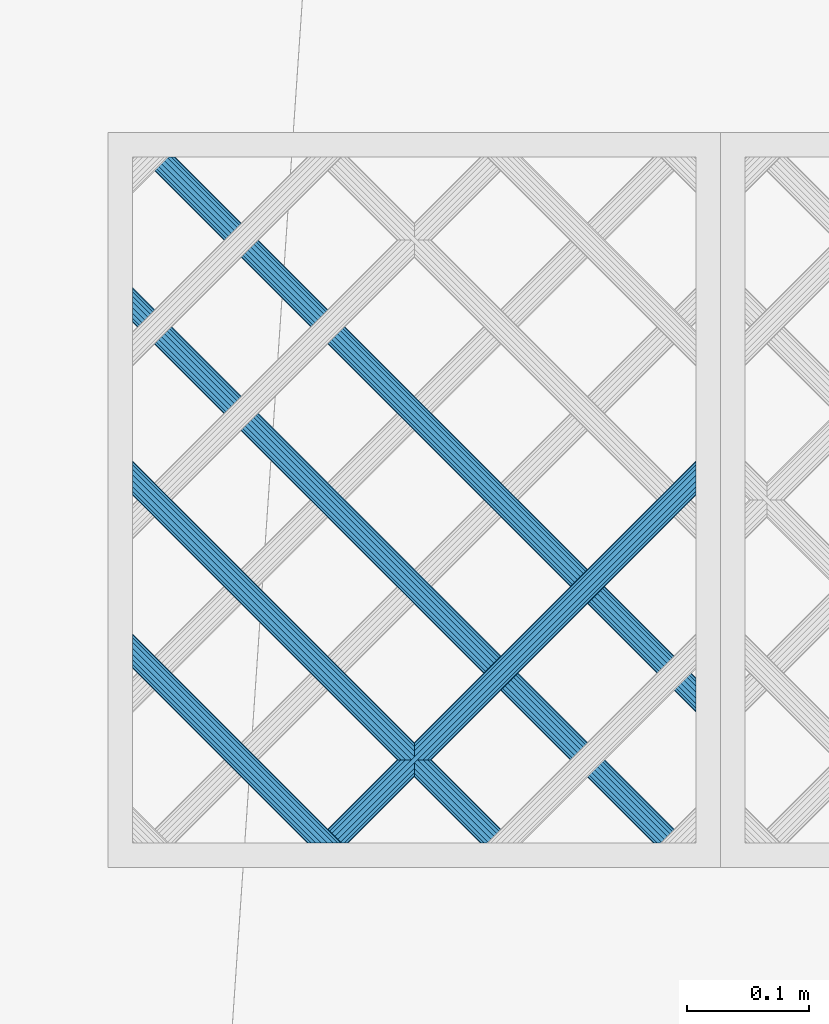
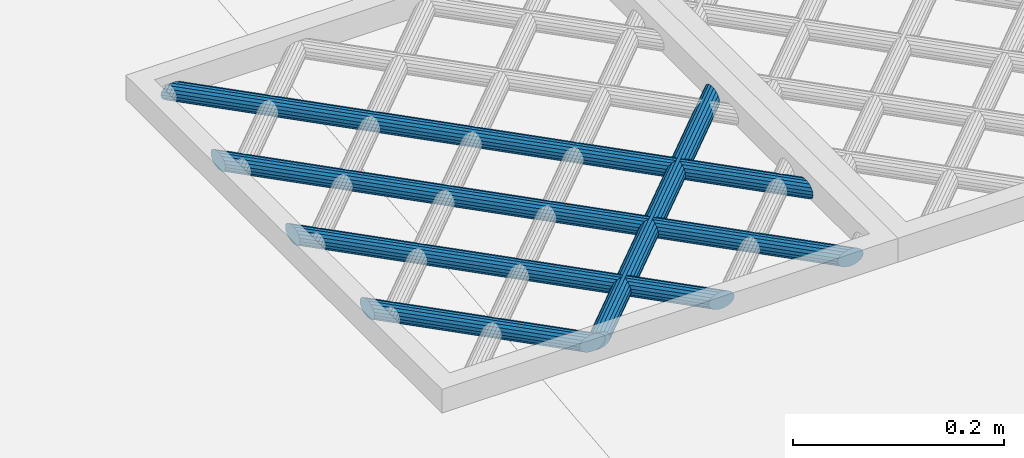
# One storey, part 74 of 133: 5 members, 1 element without a shape of its own.
"""IFC2X3 building model written with IfcOpenShell, lengths in centimetres."""

from ifc_helpers import new_model, entity, si_unit, converted_unit, direction, frame, origin, origin_with_axes, place, context, subcontext, project, spatial, faceted_brep, material, type_object, element, aggregate, save


model = new_model("IFC2X3")

# Units and contexts
model_context = context("Model", 3, precision=0.0001, world=origin(), true_north=direction((0.225632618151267, 0.974212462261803, 0.0)))
body_context = subcontext(model_context, "Body", "Model", "MODEL_VIEW")
ifc_project = project(units=[si_unit("LENGTHUNIT", "METRE", prefix="CENTI"), si_unit("AREAUNIT", "SQUARE_METRE", prefix="CENTI"), si_unit("VOLUMEUNIT", "CUBIC_METRE", prefix="CENTI"), converted_unit("PLANEANGLEUNIT", "DEGREE", entity("IfcRatioMeasure", 0.0174532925), si_unit("PLANEANGLEUNIT", "RADIAN"), dimensions=[0, 0, 0, 0, 0, 0, 0])], contexts=[model_context])

# Site, building, storey
site_placement = place(None, origin_with_axes())
site = spatial("IfcSite", under=ifc_project, at=site_placement, Name="Default Site", CompositionType="ELEMENT")
building_placement = place(site_placement, origin_with_axes())
building = spatial("IfcBuilding", under=site, at=building_placement, Name="Default Building", CompositionType="ELEMENT")
storey_placement = place(building_placement, frame((0.0, 0.0, -291.400371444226), z_axis=(0.0, 0.0, 1.0), x_axis=(1.0, 0.0, 0.0)))
storey = spatial("IfcBuildingStorey", under=building, at=storey_placement, Name="Rez-de-Jardin", CompositionType="ELEMENT", Elevation=-291.400371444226)

# Assembly, members
building_element_proxy_type = type_object("IfcBuildingElementProxyType", Name="Type Object", PredefinedType="NOTDEFINED")
assembly_placement = place(storey_placement, frame((-26.2717802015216, 1298.33524038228, 113.0), z_axis=(0.0, 1.0, -2.38697950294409e-15), x_axis=(1.0, 0.0, 0.0)))
assembly = element("IfcElementAssembly", 1, at=assembly_placement, inside=storey, type_object=building_element_proxy_type, Name="Panneau 326484", ObjectType="Precast panel", PredefinedType="USERDEFINED")
ifc_material = material(Name="Aluminium satiné")
member_1_placement = place(assembly_placement, frame((47.999998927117, 0.342020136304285, 30.4578691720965), z_axis=(0.999999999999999, 0.0, 0.0), x_axis=(0.0, -0.774594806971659, -0.632457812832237)))
member_1 = element("IfcMember", 2, at=member_1_placement, material=ifc_material, Name="4294966896", context=body_context, shape_type="Brep", body=[
    faceted_brep([(2.19269047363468e-13, -7.49400541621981e-14, 5.55111512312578e-15), (-0.388290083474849, -7.49400541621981e-14, 5.55111512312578e-15), (-0.79916635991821, -0.150246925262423, 5.55111512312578e-15), (-1.18307514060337, -0.432623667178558, 5.55111512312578e-15), (-1.49370756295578, -0.813066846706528, 5.55111512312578e-15), (-1.69359804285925, -1.24569095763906, 5.55111512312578e-15), (-1.75863665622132, -1.67831484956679, 5.55111512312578e-15), (-1.68098087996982, -2.05876033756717, 5.55111512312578e-15), (-1.46999321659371, -2.34113520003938, 5.55111512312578e-15), (-1.15112683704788, -2.49138695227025, 5.55111512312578e-15), (-0.76283675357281, -2.49138695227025, 5.55111512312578e-15), (-0.351960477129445, -2.34114002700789, 5.55111512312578e-15), (0.0319464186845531, -2.05876559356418, 5.55111512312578e-15), (0.342578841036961, -1.67832241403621, 5.55111512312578e-15), (0.542471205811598, -1.24569599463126, 5.55111512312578e-15), (0.60750981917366, -0.813072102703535, 5.55111512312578e-15), (0.529854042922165, -0.432626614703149, 5.55111512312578e-15), (0.318866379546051, -0.15025175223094, 5.55111512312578e-15), (18.2633287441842, 21.8270044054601, -28.3725813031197), (18.5282557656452, 21.6106910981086, -28.4578695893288), (18.7612286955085, 21.4204683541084, -28.7034451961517), (18.9341475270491, 21.2792798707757, -29.0796890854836), (19.0261557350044, 21.2041550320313, -29.5412197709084), (19.0261557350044, 21.2041550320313, -30.0323709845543), (18.9341475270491, 21.2792798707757, -30.4939016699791), (18.7612286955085, 21.4204683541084, -30.8701455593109), (18.5282557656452, 21.6106910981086, -31.1157211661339), (18.2633287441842, 21.8270044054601, -31.201009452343), (17.9984017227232, 22.0433177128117, -31.1157211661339), (17.76542879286, 22.2335404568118, -30.8701455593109), (17.5925099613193, 22.3747289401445, -30.4939016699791), (17.5005017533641, 22.4498537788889, -30.0323709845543), (17.5005017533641, 22.4498537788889, -29.5412197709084), (17.5925099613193, 22.3747289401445, -29.0796890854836), (17.76542879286, 22.2335404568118, -28.7034451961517), (17.9984017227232, 22.0433177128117, -28.4578695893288), (0.529853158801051, -0.432627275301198, -1.07086511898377e-06), (18.5282550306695, 21.6106905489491, -28.4578704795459), (18.263327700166, 21.8270036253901, -28.3725825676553), (0.60751052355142, -0.813071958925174, 5.56859195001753e-07), (18.7612288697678, 21.4204683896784, -28.7034450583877), (18.5282559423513, 21.610691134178, -28.4578694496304), (0.5424707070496, -1.24569591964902, -2.57365061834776e-07), (18.9341471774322, 21.279279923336, -29.0796892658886), (18.7612282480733, 21.4204684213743, -28.7034454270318), (0.342579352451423, -1.67832265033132, 1.40415109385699e-07), (19.0261556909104, 21.2041550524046, -29.5412197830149), (18.9341476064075, 21.2792798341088, -29.0796890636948), (0.0319464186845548, -2.05876559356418, 5.55111512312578e-15), (-0.351960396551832, -2.34114013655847, -3.3895360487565e-08), (18.9341479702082, 21.2792792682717, -30.4939018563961), (19.0261560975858, 21.2041545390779, -30.032371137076), (-0.762836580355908, -2.49138742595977, -2.57365059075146e-07), (18.7612290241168, 21.420467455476, -30.870146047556), (18.9341478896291, 21.2792788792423, -30.4939022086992), (-1.15112683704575, -2.49138623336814, 5.56859194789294e-07), (18.5282557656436, 21.6106905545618, -31.1157215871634), (18.7612286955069, 21.4204678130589, -30.8701459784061), (-1.46999368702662, -2.34113619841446, -1.07086511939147e-06), (18.2633283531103, 21.8270035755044, -31.2010103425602), (18.5282552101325, 21.6106899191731, -31.1157224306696), (-1.68097999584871, -2.05875967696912, 1.0708651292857e-06), (17.9984015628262, 22.0433175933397, -31.1157213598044), (18.2633288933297, 21.8270045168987, -31.201009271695), (-1.75863736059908, -1.67831499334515, -5.56859182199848e-07), (17.7654275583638, 22.2335402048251, -30.8701465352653), (17.9984004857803, 22.0433174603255, -31.1157221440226), (-1.69359754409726, -1.2456910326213, 2.57365072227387e-07), (17.5925094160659, 22.3747290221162, -30.4939019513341), (17.7654283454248, 22.2335405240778, -30.870145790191), (-1.49370743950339, -0.813066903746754, 3.38953707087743e-08), (17.5005013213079, 22.4498539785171, -30.0323711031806), (17.5925094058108, 22.374729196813, -30.4939018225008), (17.500501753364, 22.4498537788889, -29.5412197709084), (17.500501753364, 22.4498537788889, -30.0323709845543), (-0.799166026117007, -0.150247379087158, -1.40415098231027e-07), (17.5925102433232, 22.3747285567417, -29.0796892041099), (17.5005021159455, 22.4498532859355, -29.54121992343), (-0.388290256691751, 4.73689454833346e-07, 2.57365072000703e-07), (17.7654287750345, 22.2335405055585, -28.7034451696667), (17.5925099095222, 22.3747290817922, -29.0796890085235), (-1.91035629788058e-12, -7.18902186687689e-07, -5.56859183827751e-07), (17.9984017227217, 22.0433171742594, -28.4578700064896), (17.7654287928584, 22.2335399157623, -28.7034456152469), (0.318866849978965, -0.150250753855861, 1.07086512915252e-06), (18.2633286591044, 21.8270042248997, -28.3725814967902), (17.9984018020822, 22.043317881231, -28.4578694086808)], [[[0, 1, 2, 3, 4, 5, 6, 7, 8, 9, 10, 11, 12, 13, 14, 15, 16, 17]], [[18, 19, 20, 21, 22, 23, 24, 25, 26, 27, 28, 29, 30, 31, 32, 33, 34, 35]], [[17, 36, 37, 38]], [[16, 39, 40, 41]], [[15, 42, 43, 44]], [[14, 45, 46, 47]], [[13, 48, 23, 22]], [[12, 49, 50, 51]], [[11, 52, 53, 54]], [[10, 55, 56, 57]], [[9, 58, 59, 60]], [[8, 61, 62, 63]], [[7, 64, 65, 66]], [[6, 67, 68, 69]], [[5, 70, 71, 72]], [[4, 3, 73, 74]], [[3, 75, 76, 77]], [[2, 78, 79, 80]], [[1, 81, 82, 83]], [[0, 84, 85, 86]]]),
])
member_2_placement = place(assembly_placement, frame((47.999998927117, 0.342020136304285, 12.7421423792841), z_axis=(0.999999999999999, 0.0, 0.0), x_axis=(0.0, -0.774596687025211, -0.632455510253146)))
member_2 = element("IfcMember", 3, at=member_2_placement, material=ifc_material, Name="4294966890", context=body_context, shape_type="Brep", body=[
    faceted_brep([(9.43689570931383e-14, -1.51267887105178e-13, 0.0), (-0.388289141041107, -1.49880108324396e-13, 0.0), (-0.799164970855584, -0.150248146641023, 0.0), (-1.18307196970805, -0.43262487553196, 0.0), (-1.49370326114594, -0.813068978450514, 0.0), (-1.69359245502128, -1.24569368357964, 0.0), (-1.75863072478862, -1.67831892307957, 0.0), (-1.68097287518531, -2.05876302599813, 0.0), (-1.46998531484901, -2.34113841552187, 0.0), (-1.15111754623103, -2.49138806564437, 0.0), (-0.762828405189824, -2.49138806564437, 0.0), (-0.351951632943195, -2.34113876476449, 0.0), (0.0319544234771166, -2.05876319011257, 0.0), (0.342585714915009, -1.67831908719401, 0.0), (0.542475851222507, -1.24569322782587, 0.0), (0.607513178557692, -0.813069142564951, 0.0), (0.529855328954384, -0.432625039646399, 0.0), (0.318868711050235, -0.150248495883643, 0.0), (-28.358652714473, -35.272897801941, -45.3431446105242), (-28.0937250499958, -35.4892103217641, -45.2578572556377), (-27.8607515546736, -35.6794323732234, -45.0122816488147), (-27.6878323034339, -35.8206203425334, -44.6360379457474), (-27.5958238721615, -35.895744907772, -44.1745068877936), (-27.5958238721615, -35.895744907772, -43.6833556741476), (-27.6878323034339, -35.8206203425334, -43.2218242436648), (-27.8607515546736, -35.6794323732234, -42.845580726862), (-28.0937250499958, -35.4892103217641, -42.600005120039), (-28.358652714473, -35.272897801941, -42.514717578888), (-28.6235803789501, -35.0565852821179, -42.600005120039), (-28.8565538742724, -34.8663632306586, -42.845580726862), (-29.029473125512, -34.7251752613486, -43.2218242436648), (-29.1214815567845, -34.65005069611, -43.6833556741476), (-29.1214815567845, -34.65005069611, -44.1745068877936), (-29.029473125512, -34.7251752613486, -44.6360379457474), (-28.8565538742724, -34.8663632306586, -45.0122816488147), (-28.6235803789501, -35.0565852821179, -45.2578572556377), (0.529855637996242, -0.43262480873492, -3.74318492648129e-07), (-28.0937252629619, -35.4892104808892, -45.2578569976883), (-28.3586528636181, -35.27289791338, -45.3431444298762), (0.607513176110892, -0.813069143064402, 1.93436560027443e-09), (-27.8607521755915, -35.6794324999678, -45.012281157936), (-28.093725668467, -35.489210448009, -45.2578567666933), (0.542475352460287, -1.24569315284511, 2.57365066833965e-07), (-27.6878328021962, -35.8206202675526, -44.6360376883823), (-27.8607520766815, -35.679432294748, -45.0122813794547), (0.342585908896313, -1.67831917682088, -5.32598695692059e-08), (-27.5958239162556, -35.8957448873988, -44.174506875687), (-27.5958238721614, -35.895744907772, -43.6833556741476), (-27.5958238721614, -35.895744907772, -44.1745068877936), (-0.351951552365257, -2.34113887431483, 3.38953656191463e-08), (-27.6878321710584, -35.8206205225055, -43.2218241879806), (-27.5958237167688, -35.8957451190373, -43.6833556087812), (-0.762828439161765, -2.49138797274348, -5.04749811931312e-08), (-27.8607514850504, -35.6794325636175, -42.8455806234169), (-27.6878322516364, -35.8206204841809, -43.2218241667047), (-1.15111754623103, -2.49138806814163, 1.93436565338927e-09), (-28.0937250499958, -35.4892106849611, -42.6000048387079), (-27.8607515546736, -35.6794327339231, -42.8455804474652), (-1.46998546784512, -2.34113874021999, 3.48273316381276e-07), (-28.3586528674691, -35.2728981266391, -42.5147172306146), (-28.0937252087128, -35.4892106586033, -42.6000047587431), (-1.68097258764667, -2.05876281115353, -3.48273315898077e-07), (-28.6235803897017, -35.0565852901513, -42.6000051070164), (-1.75863072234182, -1.67831892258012, -1.93436607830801e-09), (-28.8565542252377, -34.8663633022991, -42.8455804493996), (-28.6235807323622, -35.0565853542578, -42.6000048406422), (-1.69359255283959, -1.24569366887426, 5.0474981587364e-08), (-29.0294733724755, -34.7251752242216, -43.2218241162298), (-28.8565541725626, -34.8663631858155, -42.845580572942), (-1.49370313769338, -0.813069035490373, -3.38953655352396e-08), (-29.1214816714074, -34.6500506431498, -43.6833556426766), (-29.0294732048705, -34.7251752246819, -43.221824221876), (-0.799164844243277, -0.150248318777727, 5.32598692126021e-08), (-29.0294729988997, -34.7251754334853, -44.6360378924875), (-29.1214814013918, -34.6500509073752, -44.1745068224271), (-0.388289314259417, 4.73688863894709e-07, -2.57365065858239e-07), (-28.8565538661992, -34.8663632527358, -45.0122816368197), (9.43432596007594e-14, 2.49710480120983e-09, -1.93436626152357e-09), (-28.6235803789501, -35.0565859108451, -45.2578567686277), (-28.8565538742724, -34.866363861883, -45.0122811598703), (0.318868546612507, -0.150248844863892, 3.74318492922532e-07), (-28.3586529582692, -35.2728983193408, -45.3431440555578), (-28.6235806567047, -35.0565858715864, -45.2578566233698)], [[[0, 1, 2, 3, 4, 5, 6, 7, 8, 9, 10, 11, 12, 13, 14, 15, 16, 17]], [[18, 19, 20, 21, 22, 23, 24, 25, 26, 27, 28, 29, 30, 31, 32, 33, 34, 35]], [[17, 36, 37, 38]], [[16, 39, 40, 41]], [[15, 42, 43, 44]], [[14, 45, 46, 21]], [[13, 12, 47, 48]], [[12, 49, 50, 51]], [[11, 52, 53, 54]], [[10, 55, 56, 57]], [[9, 58, 59, 60]], [[8, 61, 62, 27]], [[7, 63, 64, 65]], [[6, 66, 67, 68]], [[5, 69, 70, 71]], [[4, 3, 32, 31]], [[3, 72, 73, 74]], [[2, 75, 76, 33]], [[1, 77, 78, 79]], [[0, 80, 81, 82]]]),
])
member_3_placement = place(assembly_placement, frame((44.6000069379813, 0.342020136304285, 1.99999995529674), z_axis=(1.16937492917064e-15, 1.4321947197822e-15, -1.0), x_axis=(-0.632453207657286, -0.774598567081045, -1.84895090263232e-15)))
member_3 = element("IfcMember", 4, at=member_3_placement, material=ifc_material, Name="4294966889", context=body_context, shape_type="Brep", body=[
    faceted_brep([(1.66533453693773e-14, -4.9960036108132e-14, 2.30024332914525e-13), (-0.388288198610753, -4.44089209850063e-14, 2.30742258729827e-13), (-0.799165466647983, -0.150251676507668, 2.31501950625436e-13), (-1.18307068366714, -0.432628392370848, 2.32211772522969e-13), (-1.49370084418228, -0.813073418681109, 2.32786112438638e-13), (-1.69358875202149, -1.2456987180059, 2.33155695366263e-13), (-1.75862479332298, -1.67832299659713, 2.33275943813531e-13), (-1.68096675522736, -2.05876802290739, 2.33132357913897e-13), (-1.4699792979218, -2.34114393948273, 2.32742252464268e-13), (-1.15111014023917, -2.49139148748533, 2.32152679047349e-13), (-0.762820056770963, -2.49138917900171, 2.31434749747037e-13), (-0.351944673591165, -2.34113981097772, 2.30675061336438e-13), (0.0319605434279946, -2.05876309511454, 2.29965239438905e-13), (0.342590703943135, -1.67831806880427, 2.29390899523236e-13), (0.542478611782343, -1.24569276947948, 2.29021316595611e-13), (0.607516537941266, -0.813066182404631, 2.28901064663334e-13), (0.529856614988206, -0.432623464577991, 2.29044654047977e-13), (0.31886915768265, -0.150247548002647, 2.29434759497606e-13), (27.2074393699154, 32.7815926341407, -42.5147186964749), (27.4723676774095, 32.5652809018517, -42.600006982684), (27.7053417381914, 32.3750595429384, -42.8455810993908), (27.8782614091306, 32.2338720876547, -43.2218264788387), (27.9702700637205, 32.1587477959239, -43.6833571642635), (27.9702700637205, 32.1587477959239, -44.1745083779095), (27.8782614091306, 32.2338720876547, -44.6360390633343), (27.7053417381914, 32.3750595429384, -45.01228146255), (27.4723676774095, 32.5652809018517, -45.2578585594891), (27.2074393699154, 32.7815926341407, -45.3431468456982), (26.9425110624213, 32.9979043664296, -45.2578585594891), (26.7095370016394, 33.1881257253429, -45.01228146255), (26.5366173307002, 33.3293131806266, -44.6360390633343), (26.4446086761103, 33.4044374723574, -44.1745083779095), (26.4446086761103, 33.4044374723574, -43.6833571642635), (26.5366173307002, 33.3293131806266, -43.2218264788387), (26.7095370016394, 33.1881257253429, -42.8455810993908), (26.9425110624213, 32.9979043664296, -42.600006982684), (0.31886915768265, -0.150247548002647, 2.29677388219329e-13), (0.529856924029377, -0.432623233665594, 3.74318721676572e-07), (27.4723679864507, 32.5652811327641, -42.6000066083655), (0.529856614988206, -0.432623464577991, 2.29330443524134e-13), (0.607515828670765, -0.813066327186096, -5.60727690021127e-07), (27.7053410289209, 32.3750593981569, -42.8455816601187), (27.4723676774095, 32.5652809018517, -42.600006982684), (0.607516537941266, -0.813066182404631, 2.28983498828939e-13), (0.542479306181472, -1.24569287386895, 3.58315255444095e-07), (27.8782621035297, 32.2338719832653, -43.2218261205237), (0.542478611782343, -1.24569276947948, 2.28983498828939e-13), (0.342590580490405, -1.67831801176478, -3.38951363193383e-08), (27.9702699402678, 32.1587478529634, -43.6833571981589), (0.342590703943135, -1.67831806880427, 2.29677388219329e-13), (0.031960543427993, -2.05876309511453, 2.3037127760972e-13), (0.0319605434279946, -2.05876309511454, 2.3037127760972e-13), (-0.3519445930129, -2.34113992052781, -3.38951352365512e-08), (27.8782614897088, 32.2338719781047, -44.6360390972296), (-0.351944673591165, -2.34113981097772, 2.30718222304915e-13), (-0.762819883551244, -2.49138965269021, -2.57364835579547e-07), (27.7053419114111, 32.3750590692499, -45.0122817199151), (-0.762820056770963, -2.49138917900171, 2.31412111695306e-13), (-1.15111014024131, -2.49139076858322, 5.56859420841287e-07), (27.4723676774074, 32.5652816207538, -45.2578580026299), (-1.15111014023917, -2.49139148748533, 2.32452945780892e-13), (-1.46997913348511, -2.34114359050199, 3.74318724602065e-07), (27.2074395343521, 32.7815929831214, -45.3431464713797), (-1.4699792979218, -2.34114393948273, 2.33146835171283e-13), (-1.68096706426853, -2.05876825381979, -3.74318257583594e-07), (26.9425107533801, 32.9979041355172, -45.2578589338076), (-1.68096675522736, -2.05876802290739, 2.33146835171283e-13), (-1.75862549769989, -1.67832314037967, -5.56858956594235e-07), (26.7095362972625, 33.1881255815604, -45.0122820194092), (-1.75862479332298, -1.67832299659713, 2.33493779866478e-13), (-1.69358825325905, -1.24569879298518, 2.57365298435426e-07), (26.5366178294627, 33.3293131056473, -44.6360388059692), (-1.69358875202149, -1.2456987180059, 2.33493779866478e-13), (-1.49370072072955, -0.813073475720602, 3.38955991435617e-08), (26.444608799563, 33.4044374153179, -44.1745083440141), (-1.49370084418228, -0.813073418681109, 2.33146835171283e-13), (-1.18307068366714, -0.43262839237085, 2.32452945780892e-13), (-1.18307068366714, -0.432628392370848, 2.32452945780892e-13), (-0.799165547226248, -0.150251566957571, 3.38955978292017e-08), (26.536617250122, 33.3293132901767, -43.2218264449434), (-0.799165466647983, -0.150251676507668, 2.31759056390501e-13), (-0.388287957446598, -6.59490128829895e-07, -3.58314799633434e-07), (26.7095372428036, 33.1881250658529, -42.8455814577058), (-0.388288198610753, -4.44089209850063e-14, 2.31065167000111e-13), (-2.14267606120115e-12, 7.23896576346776e-07, 5.60728153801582e-07), (26.9425110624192, 32.9979050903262, -42.600006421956), (0.318868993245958, -0.150247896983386, -3.74318264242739e-07), (27.2074392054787, 32.7815922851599, -42.5147190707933), (26.9425110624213, 32.9979043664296, -42.600006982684)], [[[0, 1, 2, 3, 4, 5, 6, 7, 8, 9, 10, 11, 12, 13, 14, 15, 16, 17]], [[18, 19, 20, 21, 22, 23, 24, 25, 26, 27, 28, 29, 30, 31, 32, 33, 34, 35]], [[36, 37, 38, 18]], [[39, 40, 41, 42]], [[43, 44, 45, 20]], [[46, 47, 48, 21]], [[49, 50, 23, 22]], [[51, 52, 53, 23]], [[54, 55, 56, 24]], [[57, 58, 59, 25]], [[60, 61, 62, 26]], [[63, 64, 65, 27]], [[66, 67, 68, 28]], [[69, 70, 71, 29]], [[72, 73, 74, 30]], [[75, 76, 32, 31]], [[77, 78, 79, 32]], [[80, 81, 82, 33]], [[83, 84, 85, 34]], [[0, 86, 87, 88]]]),
])
member_4_placement = place(assembly_placement, frame((30.4578691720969, 0.342020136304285, 1.99999995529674), z_axis=(1.16937776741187e-15, 1.43218081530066e-15, -1.0), x_axis=(-0.632457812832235, -0.774594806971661, -1.84894192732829e-15)))
member_4 = element("IfcMember", 5, at=member_4_placement, material=ifc_material, Name="4294966888", context=body_context, shape_type="Brep", body=[
    faceted_brep([(-1.38777878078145e-14, -1.11022302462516e-14, 3.50414142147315e-14), (-0.388290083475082, -1.11022302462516e-14, 3.57593400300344e-14), (-0.799166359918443, -0.150246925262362, 3.6519026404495e-14), (-1.18307514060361, -0.432623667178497, 3.72288514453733e-14), (-1.49370756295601, -0.813066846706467, 3.78031927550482e-14), (-1.69359804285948, -1.245690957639, 3.81727786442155e-14), (-1.75863665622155, -1.67831484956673, 3.82930312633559e-14), (-1.68098087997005, -2.05876033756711, 3.81494502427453e-14), (-1.46999321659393, -2.34113520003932, 3.77593463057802e-14), (-1.15112683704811, -2.49138695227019, 3.71697808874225e-14), (-0.762836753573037, -2.49138695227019, 3.64518550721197e-14), (-0.351960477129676, -2.34114002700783, 3.5692168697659e-14), (0.0319464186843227, -2.05876559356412, 3.49823471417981e-14), (0.342578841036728, -1.67832241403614, 3.44080058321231e-14), (0.542471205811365, -1.2456959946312, 3.40384164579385e-14), (0.607509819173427, -0.813072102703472, 3.39181638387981e-14), (0.529854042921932, -0.432626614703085, 3.40617448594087e-14), (0.318866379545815, -0.150251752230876, 3.44518487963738e-14), (18.2633287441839, 21.8270044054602, -28.3725839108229), (18.5282557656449, 21.6106910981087, -28.4578692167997), (18.7612286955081, 21.4204683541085, -28.7034463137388), (18.9341475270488, 21.2792798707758, -29.0796887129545), (19.026155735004, 21.2041550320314, -29.5412223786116), (19.026155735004, 21.2041550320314, -30.0323735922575), (18.9341475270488, 21.2792798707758, -30.4939042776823), (18.7612286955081, 21.4204683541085, -30.870146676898), (18.5282557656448, 21.6106910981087, -31.1157237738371), (18.2633287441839, 21.8270044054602, -31.201009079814), (17.9984017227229, 22.0433177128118, -31.1157237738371), (17.7654287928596, 22.233540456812, -30.870146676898), (17.592509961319, 22.3747289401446, -30.4939042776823), (17.5005017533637, 22.449853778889, -30.0323735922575), (17.5005017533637, 22.449853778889, -29.5412223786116), (17.592509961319, 22.3747289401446, -29.0796887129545), (17.7654287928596, 22.233540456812, -28.7034463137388), (17.9984017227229, 22.0433177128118, -28.4578692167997), (0.318866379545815, -0.150251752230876, 3.43475248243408e-14), (0.529853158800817, -0.432627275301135, -1.07086509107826e-06), (18.5282548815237, 21.6106904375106, -28.4578702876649), (0.529854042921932, -0.432626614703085, 3.43475248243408e-14), (0.607510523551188, -0.81307195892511, 5.56859223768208e-07), (18.7612293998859, 21.4204684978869, -28.7034457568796), (0.607509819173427, -0.813072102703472, 3.36536354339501e-14), (0.542470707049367, -1.24569591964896, -2.57365033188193e-07), (18.9341470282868, 21.2792799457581, -29.0796889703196), (0.542471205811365, -1.2456959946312, 3.40005801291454e-14), (0.342579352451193, -1.67832265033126, 1.40415138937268e-07), (19.0261562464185, 21.2041547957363, -29.5412222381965), (0.342578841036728, -1.67832241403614, 3.43475248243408e-14), (0.0319464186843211, -2.05876559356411, 3.50414142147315e-14), (0.0319464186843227, -2.05876559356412, 3.50414142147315e-14), (-0.351960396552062, -2.34114013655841, -3.38953304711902e-08), (18.9341476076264, 21.2792797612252, -30.4939043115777), (-0.351960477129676, -2.34114002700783, 3.57353036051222e-14), (-0.762836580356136, -2.49138742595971, -2.57365028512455e-07), (18.761228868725, 21.420467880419, -30.8701469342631), (-0.762836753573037, -2.49138695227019, 3.64291929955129e-14), (-1.15112683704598, -2.49138623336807, 5.56859226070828e-07), (18.528255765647, 21.6106918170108, -31.1157232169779), (-1.15112683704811, -2.49138695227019, 3.7470027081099e-14), (-1.46999368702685, -2.3411361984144, -1.07086508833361e-06), (18.263328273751, 21.8270034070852, -31.2010101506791), (18.5282557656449, 21.6106910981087, -31.1157237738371), (-1.46999321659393, -2.34113520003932, 3.78169717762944e-14), (-1.68097999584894, -2.05875967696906, 1.0708651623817e-06), (17.998402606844, 22.0433183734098, -31.115722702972), (-1.68098087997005, -2.05876033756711, 3.81639164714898e-14), (-1.75863736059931, -1.67831499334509, -5.56859151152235e-07), (17.7654280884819, 22.2335403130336, -30.8701472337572), (-1.75863665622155, -1.67831484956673, 3.85108611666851e-14), (-1.69359754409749, -1.24569103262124, 2.57365105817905e-07), (17.592510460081, 22.3747288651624, -30.4939040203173), (-1.69359804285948, -1.245690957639, 3.85108611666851e-14), (-1.49370743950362, -0.813066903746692, 3.38954026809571e-08), (17.5005018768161, 22.4498537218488, -30.0323735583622), (-1.49370756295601, -0.813066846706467, 3.78169717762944e-14), (-1.18307514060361, -0.432623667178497, 3.71230823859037e-14), (-0.799166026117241, -0.150247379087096, -1.40415066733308e-07), (17.5925102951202, 22.3747284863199, -29.0796888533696), (17.5005017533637, 22.4498537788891, -29.5412223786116), (-0.799166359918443, -0.150246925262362, 3.67761376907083e-14), (-0.388290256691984, 4.73689517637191e-07, 2.5736510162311e-07), (17.7654286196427, 22.2335409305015, -28.7034460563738), (-0.388290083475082, -1.11022302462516e-14, 3.57353036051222e-14), (-2.14350313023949e-12, -7.18902122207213e-07, -5.56859153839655e-07), (17.9984017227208, 22.0433169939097, -28.4578697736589), (0.31886684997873, -0.150250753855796, 1.0708651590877e-06), (18.2633292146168, 21.8270054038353, -28.3725828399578)], [[[0, 1, 2, 3, 4, 5, 6, 7, 8, 9, 10, 11, 12, 13, 14, 15, 16, 17]], [[18, 19, 20, 21, 22, 23, 24, 25, 26, 27, 28, 29, 30, 31, 32, 33, 34, 35]], [[36, 37, 38, 18]], [[39, 40, 41, 19]], [[42, 43, 44, 20]], [[45, 46, 47, 21]], [[48, 49, 23, 22]], [[50, 51, 52, 23]], [[53, 54, 55, 24]], [[56, 57, 58, 25]], [[59, 60, 61, 62]], [[63, 64, 65, 27]], [[66, 67, 68, 28]], [[69, 70, 71, 29]], [[72, 73, 74, 30]], [[75, 76, 32, 31]], [[76, 77, 78, 79]], [[80, 81, 82, 33]], [[83, 84, 85, 34]], [[0, 86, 87, 35]]]),
])
member_5_placement = place(assembly_placement, frame((16.3157343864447, 0.342020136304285, 1.99999995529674), z_axis=(1.16937634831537e-15, 1.43218776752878e-15, -1.0), x_axis=(-0.632455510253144, -0.774596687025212, -1.84894641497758e-15)))
member_5 = element("IfcMember", 6, at=member_5_placement, material=ifc_material, Name="4294966887", context=body_context, shape_type="Brep", body=[
    faceted_brep([(1.80411241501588e-14, -2.22044604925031e-14, 1.83880688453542e-14), (-0.388289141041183, -2.22044604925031e-14, 1.9105994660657e-14), (-0.799165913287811, -0.150249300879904, 1.98656837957e-14), (-1.18307291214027, -0.432626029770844, 2.0575507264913e-14), (-1.49370420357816, -0.813070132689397, 2.1149847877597e-14), (-1.69359339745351, -1.24569483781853, 2.15194322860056e-14), (-1.75863166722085, -1.67832007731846, 2.16396845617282e-14), (-1.68097381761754, -2.05876418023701, 2.14960993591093e-14), (-1.46998625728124, -2.34113956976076, 2.11059946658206e-14), (-1.15111848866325, -2.49138921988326, 2.05164252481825e-14), (-0.762829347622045, -2.49138921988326, 1.97984994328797e-14), (-0.351952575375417, -2.34113991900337, 1.90388102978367e-14), (0.0319534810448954, -2.05876434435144, 1.83289885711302e-14), (0.342584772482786, -1.67832024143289, 1.77546479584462e-14), (0.542474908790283, -1.24569438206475, 1.73850618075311e-14), (0.607513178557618, -0.813069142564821, 1.72648095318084e-14), (0.529855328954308, -0.432625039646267, 1.74083947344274e-14), (0.31886776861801, -0.150249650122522, 1.7798499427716e-14), (9.31899278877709, 10.8726079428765, -14.2304476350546), (9.58392045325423, 10.6562954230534, -14.3157344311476), (9.81689394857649, 10.4660733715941, -14.5613100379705), (9.98981319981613, 10.3248854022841, -14.9375539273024), (10.0818216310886, 10.2497608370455, -15.3990861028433), (10.0818216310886, 10.2497608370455, -15.8902373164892), (9.98981319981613, 10.3248854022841, -16.351768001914), (9.81689394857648, 10.4660733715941, -16.7280118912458), (9.58392045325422, 10.6562954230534, -16.9735874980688), (9.31899278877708, 10.8726079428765, -17.0588742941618), (9.05406512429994, 11.0889204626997, -16.9735874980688), (8.82109162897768, 11.2791425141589, -16.7280118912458), (8.64817237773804, 11.420330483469, -16.351768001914), (8.55616394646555, 11.4954550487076, -15.8902373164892), (8.55616394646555, 11.4954550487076, -15.3990861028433), (8.64817237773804, 11.420330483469, -14.9375539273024), (8.82109162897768, 11.2791425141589, -14.5613100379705), (9.05406512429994, 11.0889204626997, -14.3157344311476), (0.31886776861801, -0.150249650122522, 1.80411241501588e-14), (0.529855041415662, -0.432625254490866, -3.48273298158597e-07), (9.58392016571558, 10.6562952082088, -14.3157347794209), (0.529855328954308, -0.432625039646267, 1.76941794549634e-14), (0.607513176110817, -0.813069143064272, -1.9343489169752e-09), (9.81689394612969, 10.4660733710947, -14.5613100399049), (0.607513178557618, -0.813069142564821, 1.73472347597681e-14), (0.542475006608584, -1.24569439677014, 5.04749983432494e-08), (9.98981329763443, 10.3248853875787, -14.9375538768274), (9.81689394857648, 10.4660733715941, -14.5613100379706), (0.542474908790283, -1.24569438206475, 1.73472347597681e-14), (0.34258496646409, -1.67832033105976, 5.32598875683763e-08), (10.0818218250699, 10.2497607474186, -15.3990860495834), (0.342584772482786, -1.67832024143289, 1.80411241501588e-14), (0.0319534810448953, -2.05876434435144, 1.83880688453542e-14), (0.0319534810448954, -2.05876434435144, 1.83880688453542e-14), (-0.351952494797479, -2.34114002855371, -3.38953462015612e-08), (9.98981328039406, 10.3248852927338, -16.3517680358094), (-0.351952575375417, -2.34113991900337, 1.90819582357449e-14), (-0.762829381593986, -2.49138912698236, 5.04750004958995e-08), (9.81689391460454, 10.466073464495, -16.7280118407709), (-0.762829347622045, -2.49138921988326, 1.97758476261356e-14), (-1.15111848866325, -2.49138922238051, -1.93434547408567e-09), (9.58392045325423, 10.6562954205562, -16.9735875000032), (-1.15111848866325, -2.49138921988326, 2.08166817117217e-14), (-1.46998641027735, -2.34113989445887, -3.4827329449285e-07), (9.31899263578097, 10.8726076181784, -17.0588746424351), (9.58392045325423, 10.6562954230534, -16.9735874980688), (-1.46998625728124, -2.34113956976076, 2.1163626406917e-14), (-1.68097353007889, -2.05876396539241, 3.48273337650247e-07), (9.05406541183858, 11.0889206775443, -16.9735871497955), (-1.68097381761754, -2.05876418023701, 2.15105711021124e-14), (-1.75863166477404, -1.67832007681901, 1.93438814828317e-09), (8.82109163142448, 11.2791425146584, -16.7280118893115), (-1.75863166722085, -1.67832007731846, 2.18575157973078e-14), (-1.69359349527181, -1.24569482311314, -5.04749601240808e-08), (8.64817227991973, 11.4203304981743, -16.351768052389), (-1.69359339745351, -1.24569483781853, 2.18575157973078e-14), (-1.4937040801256, -0.813070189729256, 3.38953864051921e-08), (8.55616406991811, 11.4954549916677, -15.8902372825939), (8.64817237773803, 11.420330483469, -16.351768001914), (-1.49370420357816, -0.813070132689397, 2.1163626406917e-14), (-1.18307291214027, -0.432626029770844, 2.08166817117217e-14), (-0.799165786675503, -0.150249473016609, -5.32598495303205e-08), (8.64817250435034, 11.4203303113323, -14.9375539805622), (-0.799165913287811, -0.150249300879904, 2.0122792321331e-14), (-0.388289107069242, -9.29009130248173e-08, -5.04749613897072e-08), (8.82109166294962, 11.2791424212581, -14.5613100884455), (-0.388289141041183, -2.22044604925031e-14, 1.94289029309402e-14), (1.80154266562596e-14, 2.49723375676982e-09, 1.93438456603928e-09), (9.05406512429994, 11.0889204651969, -14.3157344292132), (0.318867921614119, -0.150249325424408, 3.48273333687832e-07), (9.3189929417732, 10.8726082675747, -14.2304472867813)], [[[0, 1, 2, 3, 4, 5, 6, 7, 8, 9, 10, 11, 12, 13, 14, 15, 16, 17]], [[18, 19, 20, 21, 22, 23, 24, 25, 26, 27, 28, 29, 30, 31, 32, 33, 34, 35]], [[36, 37, 38, 18]], [[39, 40, 41, 19]], [[42, 43, 44, 45]], [[46, 47, 48, 21]], [[49, 50, 23, 22]], [[51, 52, 53, 23]], [[54, 55, 56, 24]], [[57, 58, 59, 25]], [[60, 61, 62, 63]], [[64, 65, 66, 27]], [[67, 68, 69, 28]], [[70, 71, 72, 29]], [[73, 74, 75, 76]], [[77, 78, 32, 31]], [[78, 79, 80, 32]], [[81, 82, 83, 33]], [[84, 85, 86, 34]], [[0, 87, 88, 35]]]),
])
aggregate(assembly, [member_1, member_2, member_3, member_4, member_5])

save(model, "model.ifc")
